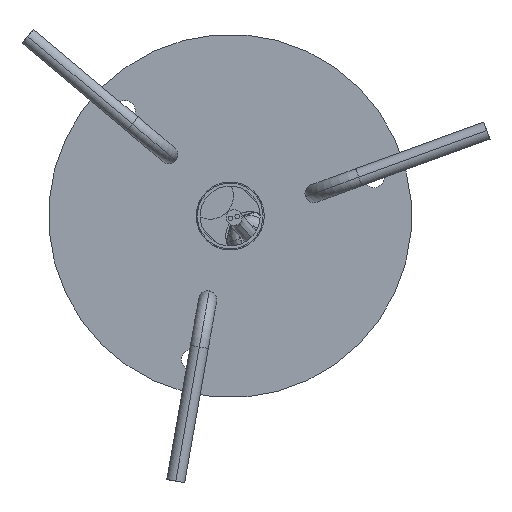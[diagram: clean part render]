
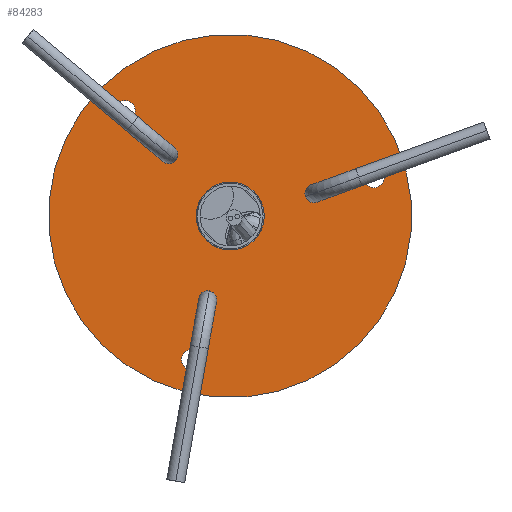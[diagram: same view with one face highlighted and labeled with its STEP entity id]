
A CAD part, front view. The second image highlights one B-rep face of the part: STEP entity #84283.
In plain terms, the highlighted planar face has unit normal (0, -1, 0) as drawn and (0, 0, 1) by its records, which use the part's own axes.
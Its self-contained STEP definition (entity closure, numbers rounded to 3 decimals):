
#83950=CARTESIAN_POINT('',(0.,0.,1.5));
#83951=DIRECTION('',(0.,0.,-1.));
#83952=DIRECTION('',(-1.,0.,0.));
#83953=AXIS2_PLACEMENT_3D('',#83950,#83951,#83952);
#83955=CARTESIAN_POINT('',(0.,0.,1.5));
#83956=DIRECTION('',(0.,0.,-1.));
#83957=DIRECTION('',(1.,0.,0.));
#83958=AXIS2_PLACEMENT_3D('',#83955,#83956,#83957);
#83960=CARTESIAN_POINT('',(0.,0.,1.5));
#83961=DIRECTION('',(0.,0.,1.));
#83962=DIRECTION('',(-1.,0.,0.));
#83963=AXIS2_PLACEMENT_3D('',#83960,#83961,#83962);
#83965=CARTESIAN_POINT('',(0.,0.,1.5));
#83966=DIRECTION('',(0.,0.,1.));
#83967=DIRECTION('',(1.,0.,0.));
#83968=AXIS2_PLACEMENT_3D('',#83965,#83966,#83967);
#83970=CARTESIAN_POINT('',(33.125,19.125,1.5));
#83971=DIRECTION('',(0.,0.,1.));
#83972=DIRECTION('',(-1.,0.,0.));
#83973=AXIS2_PLACEMENT_3D('',#83970,#83971,#83972);
#83975=CARTESIAN_POINT('',(33.125,19.125,1.5));
#83976=DIRECTION('',(0.,0.,1.));
#83977=DIRECTION('',(1.,0.,0.));
#83978=AXIS2_PLACEMENT_3D('',#83975,#83976,#83977);
#83980=CARTESIAN_POINT('',(56.725,32.75,1.5));
#83981=DIRECTION('',(0.,0.,1.));
#83982=DIRECTION('',(-1.,0.,0.));
#83983=AXIS2_PLACEMENT_3D('',#83980,#83981,#83982);
#83985=CARTESIAN_POINT('',(56.725,32.75,1.5));
#83986=DIRECTION('',(0.,0.,1.));
#83987=DIRECTION('',(1.,0.,0.));
#83988=AXIS2_PLACEMENT_3D('',#83985,#83986,#83987);
#83990=CARTESIAN_POINT('',(-56.725,32.75,1.5));
#83991=DIRECTION('',(0.,0.,1.));
#83992=DIRECTION('',(-1.,0.,0.));
#83993=AXIS2_PLACEMENT_3D('',#83990,#83991,#83992);
#83995=CARTESIAN_POINT('',(-56.725,32.75,1.5));
#83996=DIRECTION('',(0.,0.,1.));
#83997=DIRECTION('',(1.,0.,0.));
#83998=AXIS2_PLACEMENT_3D('',#83995,#83996,#83997);
#84000=CARTESIAN_POINT('',(-33.125,19.125,1.5));
#84001=DIRECTION('',(0.,0.,1.));
#84002=DIRECTION('',(-1.,0.,0.));
#84003=AXIS2_PLACEMENT_3D('',#84000,#84001,#84002);
#84005=CARTESIAN_POINT('',(-33.125,19.125,1.5));
#84006=DIRECTION('',(0.,0.,1.));
#84007=DIRECTION('',(1.,0.,0.));
#84008=AXIS2_PLACEMENT_3D('',#84005,#84006,#84007);
#84010=CARTESIAN_POINT('',(0.,-38.25,1.5));
#84011=DIRECTION('',(0.,0.,1.));
#84012=DIRECTION('',(-1.,0.,0.));
#84013=AXIS2_PLACEMENT_3D('',#84010,#84011,#84012);
#84015=CARTESIAN_POINT('',(0.,-38.25,1.5));
#84016=DIRECTION('',(0.,0.,1.));
#84017=DIRECTION('',(1.,0.,0.));
#84018=AXIS2_PLACEMENT_3D('',#84015,#84016,#84017);
#84020=CARTESIAN_POINT('',(0.,-65.5,1.5));
#84021=DIRECTION('',(0.,0.,1.));
#84022=DIRECTION('',(-1.,0.,0.));
#84023=AXIS2_PLACEMENT_3D('',#84020,#84021,#84022);
#84025=CARTESIAN_POINT('',(0.,-65.5,1.5));
#84026=DIRECTION('',(0.,0.,1.));
#84027=DIRECTION('',(1.,0.,0.));
#84028=AXIS2_PLACEMENT_3D('',#84025,#84026,#84027);
#84118=CARTESIAN_POINT('',(80.,0.,1.5));
#84119=VERTEX_POINT('',#84118);
#84120=CARTESIAN_POINT('',(-80.,0.,1.5));
#84121=VERTEX_POINT('',#84120);
#84122=CARTESIAN_POINT('',(-15.,0.,1.5));
#84123=CARTESIAN_POINT('',(15.,0.,1.5));
#84124=VERTEX_POINT('',#84122);
#84125=VERTEX_POINT('',#84123);
#84126=CARTESIAN_POINT('',(29.625,19.125,1.5));
#84127=CARTESIAN_POINT('',(36.625,19.125,1.5));
#84128=VERTEX_POINT('',#84126);
#84129=VERTEX_POINT('',#84127);
#84130=CARTESIAN_POINT('',(52.225,32.75,1.5));
#84131=CARTESIAN_POINT('',(61.225,32.75,1.5));
#84132=VERTEX_POINT('',#84130);
#84133=VERTEX_POINT('',#84131);
#84134=CARTESIAN_POINT('',(-61.225,32.75,1.5));
#84135=CARTESIAN_POINT('',(-52.225,32.75,1.5));
#84136=VERTEX_POINT('',#84134);
#84137=VERTEX_POINT('',#84135);
#84138=CARTESIAN_POINT('',(-36.625,19.125,1.5));
#84139=CARTESIAN_POINT('',(-29.625,19.125,1.5));
#84140=VERTEX_POINT('',#84138);
#84141=VERTEX_POINT('',#84139);
#84142=CARTESIAN_POINT('',(-3.5,-38.25,1.5));
#84143=CARTESIAN_POINT('',(3.5,-38.25,1.5));
#84144=VERTEX_POINT('',#84142);
#84145=VERTEX_POINT('',#84143);
#84146=CARTESIAN_POINT('',(-4.5,-65.5,1.5));
#84147=CARTESIAN_POINT('',(4.5,-65.5,1.5));
#84148=VERTEX_POINT('',#84146);
#84149=VERTEX_POINT('',#84147);
#84232=CARTESIAN_POINT('',(0.,0.,1.5));
#84233=DIRECTION('',(0.,0.,1.));
#84234=DIRECTION('',(1.,0.,0.));
#84235=AXIS2_PLACEMENT_3D('',#84232,#84233,#84234);
#84236=PLANE('',#84235);
#84237=ORIENTED_EDGE('',*,*,#84212,.T.);
#84238=ORIENTED_EDGE('',*,*,#84226,.T.);
#84239=EDGE_LOOP('',(#84237,#84238));
#84240=FACE_OUTER_BOUND('',#84239,.F.);
#84242=ORIENTED_EDGE('',*,*,#84241,.T.);
#84244=ORIENTED_EDGE('',*,*,#84243,.T.);
#84245=EDGE_LOOP('',(#84242,#84244));
#84246=FACE_BOUND('',#84245,.F.);
#84248=ORIENTED_EDGE('',*,*,#84247,.T.);
#84250=ORIENTED_EDGE('',*,*,#84249,.T.);
#84251=EDGE_LOOP('',(#84248,#84250));
#84252=FACE_BOUND('',#84251,.F.);
#84254=ORIENTED_EDGE('',*,*,#84253,.T.);
#84256=ORIENTED_EDGE('',*,*,#84255,.T.);
#84257=EDGE_LOOP('',(#84254,#84256));
#84258=FACE_BOUND('',#84257,.F.);
#84260=ORIENTED_EDGE('',*,*,#84259,.T.);
#84262=ORIENTED_EDGE('',*,*,#84261,.T.);
#84263=EDGE_LOOP('',(#84260,#84262));
#84264=FACE_BOUND('',#84263,.F.);
#84266=ORIENTED_EDGE('',*,*,#84265,.T.);
#84268=ORIENTED_EDGE('',*,*,#84267,.T.);
#84269=EDGE_LOOP('',(#84266,#84268));
#84270=FACE_BOUND('',#84269,.F.);
#84272=ORIENTED_EDGE('',*,*,#84271,.T.);
#84274=ORIENTED_EDGE('',*,*,#84273,.T.);
#84275=EDGE_LOOP('',(#84272,#84274));
#84276=FACE_BOUND('',#84275,.F.);
#84278=ORIENTED_EDGE('',*,*,#84277,.T.);
#84280=ORIENTED_EDGE('',*,*,#84279,.T.);
#84281=EDGE_LOOP('',(#84278,#84280));
#84282=FACE_BOUND('',#84281,.F.);
#84283=ADVANCED_FACE('',(#84240,#84246,#84252,#84258,#84264,#84270,#84276,
#84282),#84236,.T.);
#83954=CIRCLE('',#83953,80.);
#83959=CIRCLE('',#83958,80.);
#83964=CIRCLE('',#83963,15.);
#83969=CIRCLE('',#83968,15.);
#83974=CIRCLE('',#83973,3.5);
#83979=CIRCLE('',#83978,3.5);
#83984=CIRCLE('',#83983,4.5);
#83989=CIRCLE('',#83988,4.5);
#83994=CIRCLE('',#83993,4.5);
#83999=CIRCLE('',#83998,4.5);
#84004=CIRCLE('',#84003,3.5);
#84009=CIRCLE('',#84008,3.5);
#84014=CIRCLE('',#84013,3.5);
#84019=CIRCLE('',#84018,3.5);
#84024=CIRCLE('',#84023,4.5);
#84029=CIRCLE('',#84028,4.5);
#84212=EDGE_CURVE('',#84121,#84119,#83954,.T.);
#84226=EDGE_CURVE('',#84119,#84121,#83959,.T.);
#84241=EDGE_CURVE('',#84124,#84125,#83964,.T.);
#84243=EDGE_CURVE('',#84125,#84124,#83969,.T.);
#84247=EDGE_CURVE('',#84128,#84129,#83974,.T.);
#84249=EDGE_CURVE('',#84129,#84128,#83979,.T.);
#84253=EDGE_CURVE('',#84132,#84133,#83984,.T.);
#84255=EDGE_CURVE('',#84133,#84132,#83989,.T.);
#84259=EDGE_CURVE('',#84136,#84137,#83994,.T.);
#84261=EDGE_CURVE('',#84137,#84136,#83999,.T.);
#84265=EDGE_CURVE('',#84140,#84141,#84004,.T.);
#84267=EDGE_CURVE('',#84141,#84140,#84009,.T.);
#84271=EDGE_CURVE('',#84144,#84145,#84014,.T.);
#84273=EDGE_CURVE('',#84145,#84144,#84019,.T.);
#84277=EDGE_CURVE('',#84148,#84149,#84024,.T.);
#84279=EDGE_CURVE('',#84149,#84148,#84029,.T.);
